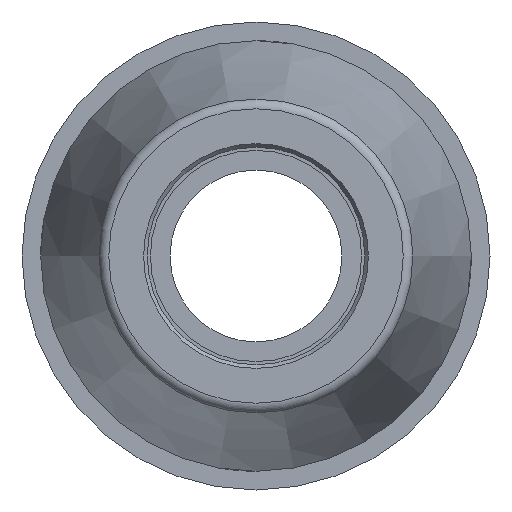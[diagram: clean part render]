
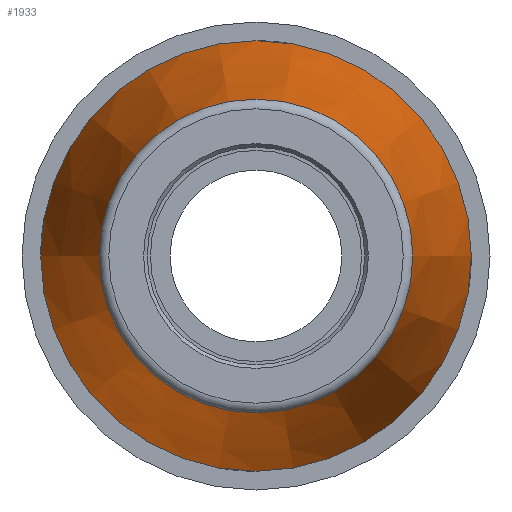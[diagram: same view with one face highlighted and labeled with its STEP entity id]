
A CAD part, left-side view. The second image highlights one B-rep face of the part: STEP entity #1933.
In plain terms, the highlighted conical face has half-angle 13 degrees and reference radius 30.073 mm.
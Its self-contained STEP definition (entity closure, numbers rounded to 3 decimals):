
#144=CONICAL_SURFACE('',#2166,30.073,0.227);
#222=LINE('',#3949,#331);
#331=VECTOR('',#2685,30.073);
#474=FACE_OUTER_BOUND('',#586,.T.);
#586=EDGE_LOOP('',(#1674,#1675,#1676,#1677,#1678,#1679,#1680));
#720=CIRCLE('',#2162,25.473);
#721=CIRCLE('',#2163,25.473);
#723=CIRCLE('',#2165,25.473);
#724=CIRCLE('',#2167,34.96);
#725=CIRCLE('',#2168,34.96);
#909=VERTEX_POINT('',#3937);
#910=VERTEX_POINT('',#3938);
#911=VERTEX_POINT('',#3940);
#912=VERTEX_POINT('',#3945);
#913=VERTEX_POINT('',#3946);
#1179=EDGE_CURVE('',#909,#910,#720,.T.);
#1180=EDGE_CURVE('',#910,#911,#721,.T.);
#1182=EDGE_CURVE('',#911,#909,#723,.T.);
#1183=EDGE_CURVE('',#912,#913,#724,.T.);
#1184=EDGE_CURVE('',#913,#912,#725,.T.);
#1185=EDGE_CURVE('',#913,#910,#222,.T.);
#1674=ORIENTED_EDGE('',*,*,#1183,.F.);
#1675=ORIENTED_EDGE('',*,*,#1184,.F.);
#1676=ORIENTED_EDGE('',*,*,#1185,.T.);
#1677=ORIENTED_EDGE('',*,*,#1179,.F.);
#1678=ORIENTED_EDGE('',*,*,#1182,.F.);
#1679=ORIENTED_EDGE('',*,*,#1180,.F.);
#1680=ORIENTED_EDGE('',*,*,#1185,.F.);
#1933=ADVANCED_FACE('',(#474),#144,.T.);
#2162=AXIS2_PLACEMENT_3D('',#3939,#2671,#2672);
#2163=AXIS2_PLACEMENT_3D('',#3941,#2673,#2674);
#2165=AXIS2_PLACEMENT_3D('',#3943,#2677,#2678);
#2166=AXIS2_PLACEMENT_3D('',#3944,#2679,#2680);
#2167=AXIS2_PLACEMENT_3D('',#3947,#2681,#2682);
#2168=AXIS2_PLACEMENT_3D('',#3948,#2683,#2684);
#2671=DIRECTION('center_axis',(-1.,0.,0.));
#2672=DIRECTION('ref_axis',(0.,-1.,0.));
#2673=DIRECTION('center_axis',(-1.,0.,0.));
#2674=DIRECTION('ref_axis',(0.,-1.,0.));
#2677=DIRECTION('center_axis',(-1.,0.,0.));
#2678=DIRECTION('ref_axis',(0.,-1.,0.));
#2679=DIRECTION('center_axis',(1.,0.,0.));
#2680=DIRECTION('ref_axis',(0.,1.,0.));
#2681=DIRECTION('center_axis',(1.,0.,0.));
#2682=DIRECTION('ref_axis',(0.,0.,-1.));
#2683=DIRECTION('center_axis',(1.,0.,0.));
#2684=DIRECTION('ref_axis',(0.,0.,-1.));
#2685=DIRECTION('',(-0.974,0.225,0.));
#3937=CARTESIAN_POINT('',(-79.26,25.473,0.));
#3938=CARTESIAN_POINT('',(-79.26,-25.473,0.));
#3939=CARTESIAN_POINT('Origin',(-79.26,0.,0.));
#3940=CARTESIAN_POINT('',(-79.26,0.,25.473));
#3941=CARTESIAN_POINT('Origin',(-79.26,0.,0.));
#3943=CARTESIAN_POINT('Origin',(-79.26,0.,0.));
#3944=CARTESIAN_POINT('Origin',(-59.333,0.,
0.));
#3945=CARTESIAN_POINT('',(-38.167,34.96,0.));
#3946=CARTESIAN_POINT('',(-38.167,-34.96,0.));
#3947=CARTESIAN_POINT('Origin',(-38.167,0.,
0.));
#3948=CARTESIAN_POINT('Origin',(-38.167,0.,
0.));
#3949=CARTESIAN_POINT('',(-59.333,-30.073,0.));
